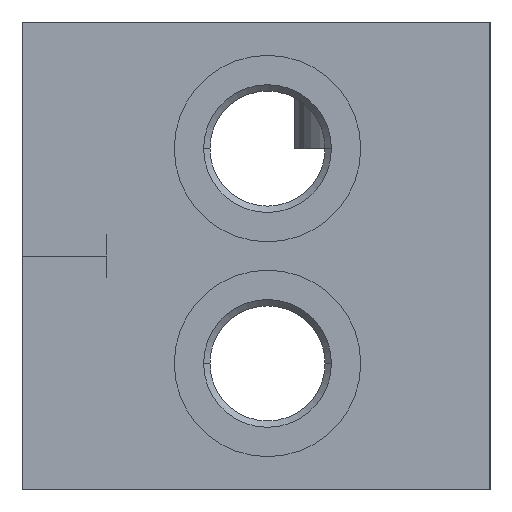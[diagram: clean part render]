
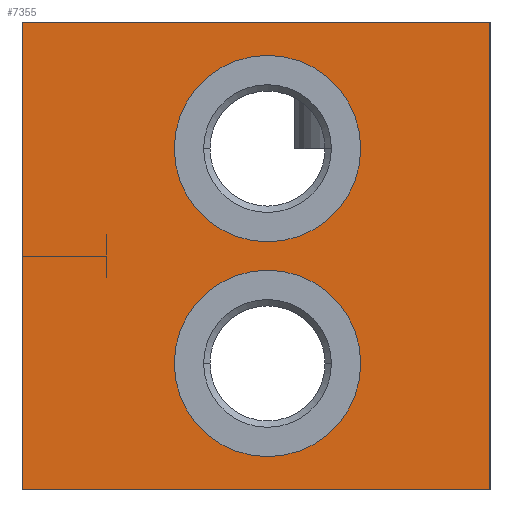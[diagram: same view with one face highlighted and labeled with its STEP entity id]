
A CAD part, left-side view. The second image highlights one B-rep face of the part: STEP entity #7355.
In plain terms, the highlighted planar face has unit normal (-1, 0, 0).
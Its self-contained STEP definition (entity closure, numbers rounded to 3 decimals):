
#25=DIRECTION('',(0.,-1.,0.));
#26=VECTOR('',#25,61.);
#27=CARTESIAN_POINT('',(0.,61.,0.));
#28=LINE('',#27,#26);
#197=DIRECTION('',(0.,0.,-1.));
#198=VECTOR('',#197,61.);
#199=CARTESIAN_POINT('',(0.,0.,0.));
#200=LINE('',#199,#198);
#1425=DIRECTION('',(0.,0.,-1.));
#1426=VECTOR('',#1425,61.);
#1427=CARTESIAN_POINT('',(0.,61.,0.));
#1428=LINE('',#1427,#1426);
#1429=CARTESIAN_POINT('',(0.,29.,-44.5));
#1430=DIRECTION('',(1.,0.,0.));
#1431=DIRECTION('',(0.,-1.,0.));
#1432=AXIS2_PLACEMENT_3D('',#1429,#1430,#1431);
#1434=CARTESIAN_POINT('',(0.,29.,-44.5));
#1435=DIRECTION('',(1.,0.,0.));
#1436=DIRECTION('',(0.,1.,0.));
#1437=AXIS2_PLACEMENT_3D('',#1434,#1435,#1436);
#1439=CARTESIAN_POINT('',(0.,29.,-16.5));
#1440=DIRECTION('',(1.,0.,0.));
#1441=DIRECTION('',(0.,-1.,0.));
#1442=AXIS2_PLACEMENT_3D('',#1439,#1440,#1441);
#1444=CARTESIAN_POINT('',(0.,29.,-16.5));
#1445=DIRECTION('',(1.,0.,0.));
#1446=DIRECTION('',(0.,1.,0.));
#1447=AXIS2_PLACEMENT_3D('',#1444,#1445,#1446);
#1461=DIRECTION('',(0.,-1.,0.));
#1462=VECTOR('',#1461,61.);
#1463=CARTESIAN_POINT('',(0.,61.,-61.));
#1464=LINE('',#1463,#1462);
#5686=CARTESIAN_POINT('',(0.,0.,0.));
#5688=VERTEX_POINT('',#5686);
#5692=CARTESIAN_POINT('',(0.,61.,0.));
#5693=VERTEX_POINT('',#5692);
#5694=CARTESIAN_POINT('',(0.,0.,-61.));
#5696=VERTEX_POINT('',#5694);
#5700=CARTESIAN_POINT('',(0.,61.,-61.));
#5701=VERTEX_POINT('',#5700);
#5714=CARTESIAN_POINT('',(0.,16.85,-44.5));
#5715=CARTESIAN_POINT('',(0.,41.15,-44.5));
#5716=VERTEX_POINT('',#5714);
#5717=VERTEX_POINT('',#5715);
#5730=CARTESIAN_POINT('',(0.,16.85,-16.5));
#5731=CARTESIAN_POINT('',(0.,41.15,-16.5));
#5732=VERTEX_POINT('',#5730);
#5733=VERTEX_POINT('',#5731);
#7331=CARTESIAN_POINT('',(0.,61.,0.));
#7332=DIRECTION('',(-1.,0.,0.));
#7333=DIRECTION('',(0.,-1.,0.));
#7334=AXIS2_PLACEMENT_3D('',#7331,#7332,#7333);
#7335=PLANE('',#7334);
#7336=ORIENTED_EDGE('',*,*,#6781,.T.);
#7337=ORIENTED_EDGE('',*,*,#6896,.T.);
#7339=ORIENTED_EDGE('',*,*,#7338,.F.);
#7340=ORIENTED_EDGE('',*,*,#6975,.F.);
#7341=EDGE_LOOP('',(#7336,#7337,#7339,#7340));
#7342=FACE_OUTER_BOUND('',#7341,.F.);
#7344=ORIENTED_EDGE('',*,*,#7343,.F.);
#7346=ORIENTED_EDGE('',*,*,#7345,.F.);
#7347=EDGE_LOOP('',(#7344,#7346));
#7348=FACE_BOUND('',#7347,.F.);
#7350=ORIENTED_EDGE('',*,*,#7349,.F.);
#7352=ORIENTED_EDGE('',*,*,#7351,.F.);
#7353=EDGE_LOOP('',(#7350,#7352));
#7354=FACE_BOUND('',#7353,.F.);
#1433=CIRCLE('',#1432,12.15);
#1438=CIRCLE('',#1437,12.15);
#1443=CIRCLE('',#1442,12.15);
#1448=CIRCLE('',#1447,12.15);
#6781=EDGE_CURVE('',#5693,#5688,#28,.T.);
#6896=EDGE_CURVE('',#5688,#5696,#200,.T.);
#6975=EDGE_CURVE('',#5693,#5701,#1428,.T.);
#7338=EDGE_CURVE('',#5701,#5696,#1464,.T.);
#7343=EDGE_CURVE('',#5716,#5717,#1433,.T.);
#7345=EDGE_CURVE('',#5717,#5716,#1438,.T.);
#7349=EDGE_CURVE('',#5732,#5733,#1443,.T.);
#7351=EDGE_CURVE('',#5733,#5732,#1448,.T.);
#7355=ADVANCED_FACE('',(#7342,#7348,#7354),#7335,.T.);
